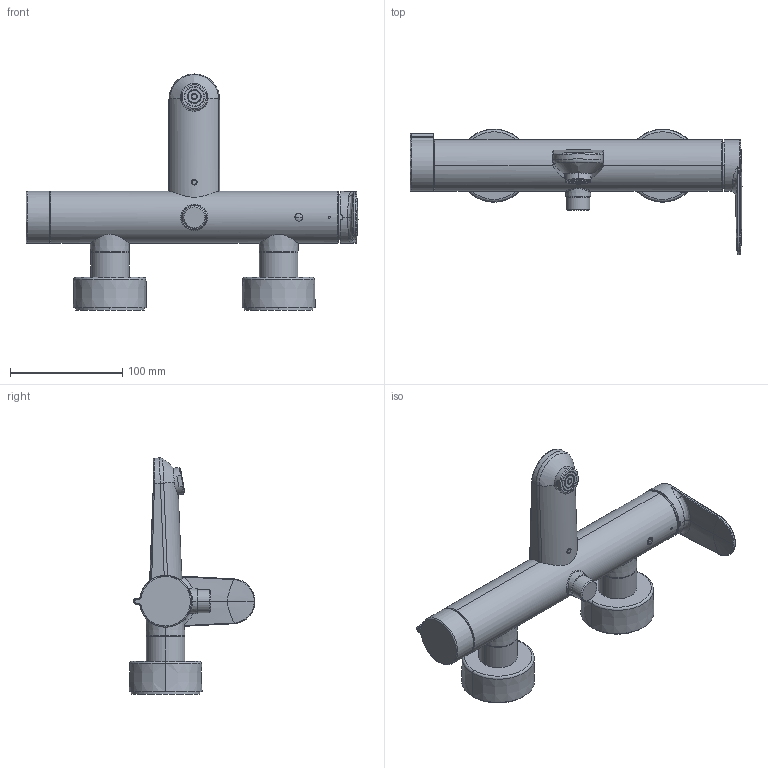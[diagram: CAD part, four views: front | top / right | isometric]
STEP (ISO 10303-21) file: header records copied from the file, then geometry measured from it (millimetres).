
FILE_DESCRIPTION((''),'2;1');
FILE_NAME('20382453','2017-11-27T',('ES997'),(''),'CREO PARAMETRIC BY PTC INC, 2016260','CREO PARAMETRIC BY PTC INC, 2016260','');
FILE_SCHEMA(('CONFIG_CONTROL_DESIGN'));
Length unit declared in the file: millimetre
Products named in the file (1): 20382453
Bounding box: 295.2 x 112 x 209.99 mm (x, y, z)
Volume: 836379.4 mm3; surface area: 99921.5 mm2
Topology: 2 solids, 2 shells, 427 faces, 1066 edges, 659 vertices
Faces by surface type: cylinder 118, torus 94, bspline 82, plane 77, cone 45, sphere 11
Entity records: 22258 total; most frequent: CARTESIAN_POINT 12690, ORIENTED_EDGE 2120, DIRECTION 1855, EDGE_CURVE 1060, AXIS2_PLACEMENT_3D 800, VERTEX_POINT 659, EDGE_LOOP 459, CIRCLE 455
